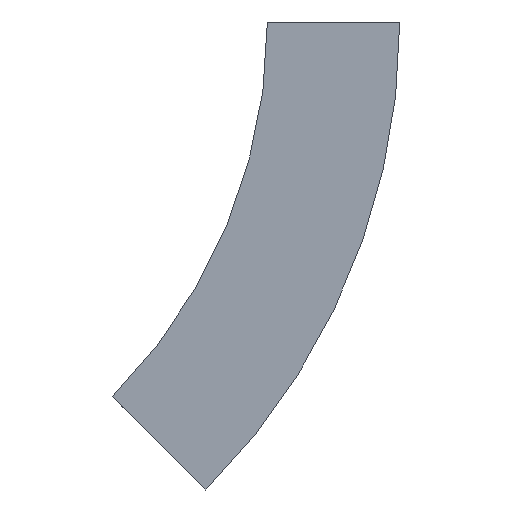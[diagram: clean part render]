
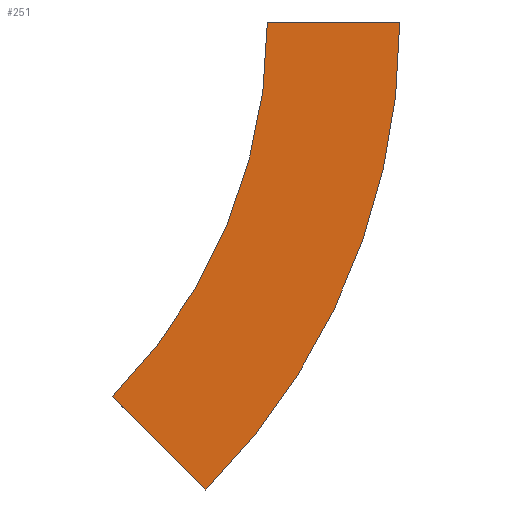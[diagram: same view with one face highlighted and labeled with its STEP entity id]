
A CAD part, left-side view. The second image highlights one B-rep face of the part: STEP entity #251.
In plain terms, the highlighted planar face has unit normal (-1, 0, 0) as drawn and (1, 0, 0) by its records, which use the part's own axes.
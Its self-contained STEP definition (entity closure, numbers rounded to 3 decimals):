
#12 = DIRECTION ( 'NONE',  ( 1., 0., 0. ) ) ;
#31 = DIRECTION ( 'NONE',  ( 0., 1., 0. ) ) ;
#47 = VECTOR ( 'NONE', #31, 1000. ) ;
#61 = CARTESIAN_POINT ( 'NONE',  ( 0., 300., 0. ) ) ;
#70 = CARTESIAN_POINT ( 'NONE',  ( 0., 87.868, -212.132 ) ) ;
#74 = AXIS2_PLACEMENT_3D ( 'NONE', #475, #351, #254 ) ;
#106 = LINE ( 'NONE', #244, #47 ) ;
#125 = ORIENTED_EDGE ( 'NONE', *, *, #437, .T. ) ;
#130 = CIRCLE ( 'NONE', #450, 375. ) ;
#172 = ORIENTED_EDGE ( 'NONE', *, *, #367, .F. ) ;
#244 = CARTESIAN_POINT ( 'NONE',  ( 0., -75., 0. ) ) ;
#251 = ADVANCED_FACE ( 'NONE', ( #350 ), #345, .F. ) ;
#254 = DIRECTION ( 'NONE',  ( 0., 0., 1. ) ) ;
#264 = VERTEX_POINT ( 'NONE', #473 ) ;
#332 = LINE ( 'NONE', #373, #385 ) ;
#339 = DIRECTION ( 'NONE',  ( 0., 0.707, 0.707 ) ) ;
#344 = CIRCLE ( 'NONE', #559, 300. ) ;
#345 = PLANE ( 'NONE',  #74 ) ;
#350 = FACE_OUTER_BOUND ( 'NONE', #522, .T. ) ;
#351 = DIRECTION ( 'NONE',  ( -1., 0., 0. ) ) ;
#353 = EDGE_CURVE ( 'NONE', #498, #488, #130, .T. ) ;
#357 = ORIENTED_EDGE ( 'NONE', *, *, #353, .T. ) ;
#367 = EDGE_CURVE ( 'NONE', #264, #446, #344, .T. ) ;
#373 = CARTESIAN_POINT ( 'NONE',  ( 0., 34.835, -265.165 ) ) ;
#385 = VECTOR ( 'NONE', #339, 1000. ) ;
#413 = CARTESIAN_POINT ( 'NONE',  ( 0., 34.835, -265.165 ) ) ;
#437 = EDGE_CURVE ( 'NONE', #488, #446, #332, .T. ) ;
#446 = VERTEX_POINT ( 'NONE', #70 ) ;
#450 = AXIS2_PLACEMENT_3D ( 'NONE', #61, #528, #451 ) ;
#451 = DIRECTION ( 'NONE',  ( 0., -1., 0. ) ) ;
#473 = CARTESIAN_POINT ( 'NONE',  ( 0., 0., 0. ) ) ;
#475 = CARTESIAN_POINT ( 'NONE',  ( 0., -75., 0. ) ) ;
#485 = ORIENTED_EDGE ( 'NONE', *, *, #486, .F. ) ;
#486 = EDGE_CURVE ( 'NONE', #498, #264, #106, .T. ) ;
#487 = CARTESIAN_POINT ( 'NONE',  ( 0., 300., 0. ) ) ;
#488 = VERTEX_POINT ( 'NONE', #413 ) ;
#498 = VERTEX_POINT ( 'NONE', #500 ) ;
#500 = CARTESIAN_POINT ( 'NONE',  ( 0., -75., 0. ) ) ;
#522 = EDGE_LOOP ( 'NONE', ( #172, #485, #357, #125 ) ) ;
#525 = DIRECTION ( 'NONE',  ( 0., -1., 0. ) ) ;
#528 = DIRECTION ( 'NONE',  ( 1., 0., 0. ) ) ;
#559 = AXIS2_PLACEMENT_3D ( 'NONE', #487, #12, #525 ) ;
